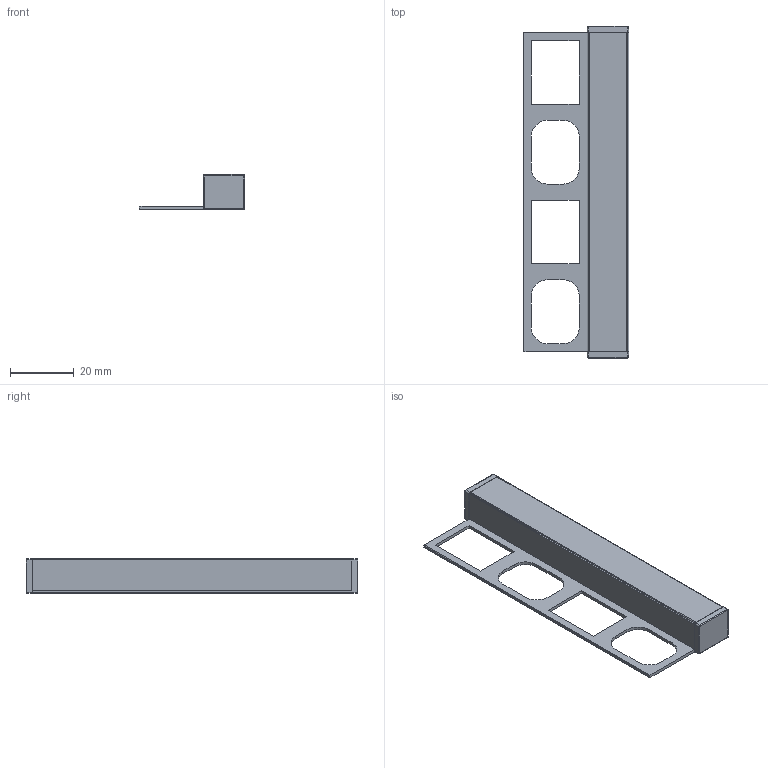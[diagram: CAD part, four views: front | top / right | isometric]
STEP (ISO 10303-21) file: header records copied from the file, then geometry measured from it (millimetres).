
FILE_DESCRIPTION(/* description */ (''),/* implementation_level */ '2;1');
FILE_NAME(/* name */ 'c:\worker\convert-fusion-r02\tmp\job-1\125\output\files\10f027d0-7adf-4df7-a67b-7e8158ec4edc\02d10f09-af7f-416b-b9b0-223f78f58a4a.stp',/* time_stamp */ '2022-03-30T13:57:48+00:00',/* author */ (''),/* organization */ (''),/* preprocessor_version */ 'ST-DEVELOPER v18.1',/* originating_system */ 'Autodesk Translation Framework v10.14.0.1471',/* authorisation */ '');
FILE_SCHEMA (('AUTOMOTIVE_DESIGN { 1 0 10303 214 3 1 1 }'));
Length unit declared in the file: millimetre
Products named in the file (6): 3311_Profile; Aluminium Profile; Light Diffuser / Lens; End Cap; End Cap w/ Cable Out; LED Strip Light
Assembly tree (6 placements, depth 2):
  3311_Profile
    Aluminium Profile
    Light Diffuser / Lens
    End Cap
    End Cap w/ Cable Out
    LED Strip Light  x2
Bounding box: 33 x 104.04 x 11 mm (x, y, z)
Volume: 8760.3 mm3; surface area: 17007.9 mm2
Topology: 78 solids, 78 shells, 783 faces, 1761 edges, 1128 vertices
Faces by surface type: plane 445, cylinder 234, sphere 70, bspline 18, torus 14, cone 2
Full cylindrical faces by diameter (mm): 4.5 x1
Entity records: 15535 total; most frequent: CARTESIAN_POINT 2906, DIRECTION 2715, ORIENTED_EDGE 2450, EDGE_CURVE 1225, AXIS2_PLACEMENT_3D 965, LINE 785, VECTOR 785, VERTEX_POINT 776
